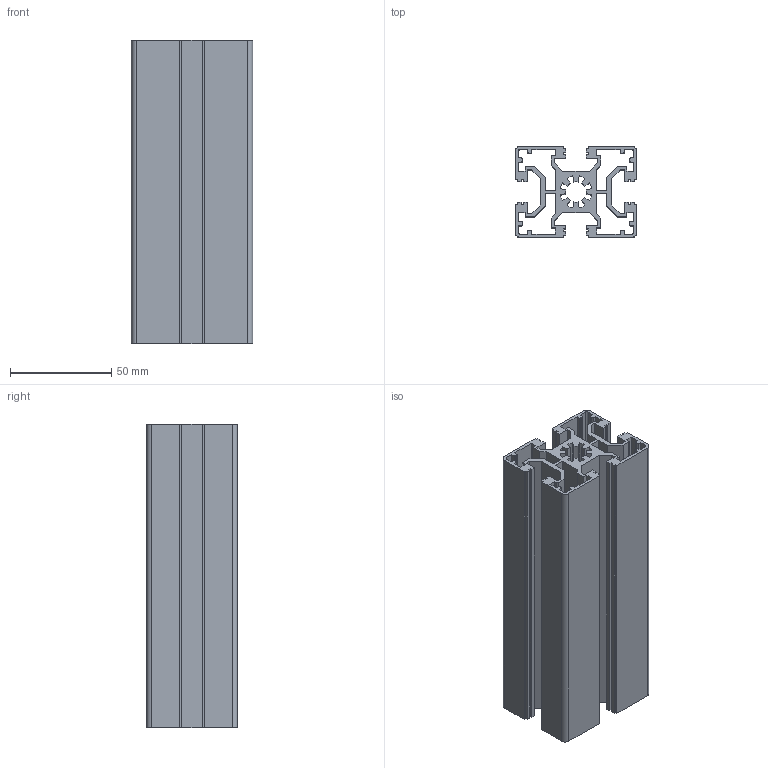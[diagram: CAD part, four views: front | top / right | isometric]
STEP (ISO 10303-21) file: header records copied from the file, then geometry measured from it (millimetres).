
FILE_DESCRIPTION((''),'2;1');
FILE_NAME('E:\catalogue and flyer\Profile catalogue 2015\profile-step file,31MAr16\PS4560-10.stp','2016-03-31T14:18:18',('h029'),(''),'Autodesk Inventor 11','Autodesk Inventor 11','');
FILE_SCHEMA(('AUTOMOTIVE_DESIGN { 1 0 10303 214 1 1 1 1 }'));
Length unit declared in the file: millimetre
Products named in the file (1): ps4560-10
Bounding box: 60 x 45 x 150 mm (x, y, z)
Volume: 140742.1 mm3; surface area: 126628.4 mm2
Topology: 1 solids, 1 shells, 238 faces, 708 edges, 472 vertices
Faces by surface type: plane 186, cylinder 52
Entity records: 7959 total; most frequent: CARTESIAN_POINT 1419, ORIENTED_EDGE 1416, DIRECTION 1290, EDGE_CURVE 708, VECTOR 604, LINE 604, VERTEX_POINT 472, AXIS2_PLACEMENT_3D 343
